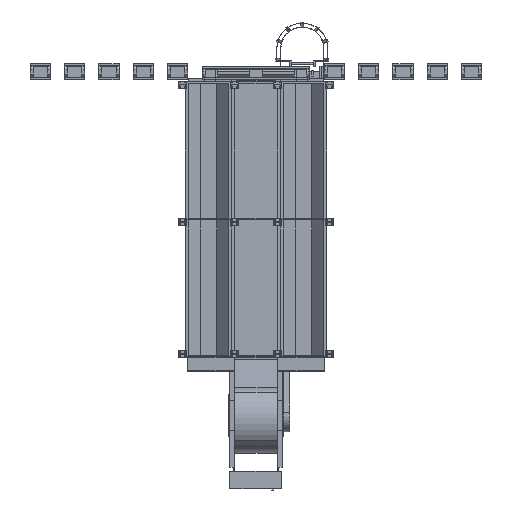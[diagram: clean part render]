
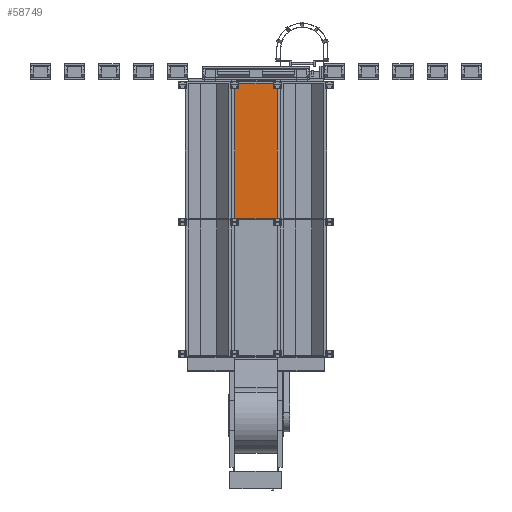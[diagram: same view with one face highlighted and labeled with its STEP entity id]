
A CAD part, front view. The second image highlights one B-rep face of the part: STEP entity #58749.
In plain terms, the highlighted planar face has unit normal (0, -1, 0) as drawn and (0, 0, -1) by its records, which use the part's own axes.
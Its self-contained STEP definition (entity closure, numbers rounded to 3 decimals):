
#3143=FACE_OUTER_BOUND('',#6157,.T.);
#6157=EDGE_LOOP('',(#39226,#39227,#39228,#39229));
#9858=LINE('',#83326,#17144);
#9861=LINE('',#83332,#17147);
#9927=LINE('',#83470,#17213);
#9928=LINE('',#83471,#17214);
#17144=VECTOR('',#67012,0.394);
#17147=VECTOR('',#67017,0.394);
#17213=VECTOR('',#67107,0.394);
#17214=VECTOR('',#67108,0.394);
#24359=VERTEX_POINT('',#83319);
#24362=VERTEX_POINT('',#83324);
#24363=VERTEX_POINT('',#83328);
#24424=VERTEX_POINT('',#83469);
#30175=EDGE_CURVE('',#24362,#24359,#9858,.T.);
#30178=EDGE_CURVE('',#24359,#24363,#9861,.T.);
#30244=EDGE_CURVE('',#24424,#24363,#9927,.T.);
#30245=EDGE_CURVE('',#24424,#24362,#9928,.T.);
#39226=ORIENTED_EDGE('',*,*,#30244,.T.);
#39227=ORIENTED_EDGE('',*,*,#30178,.F.);
#39228=ORIENTED_EDGE('',*,*,#30175,.F.);
#39229=ORIENTED_EDGE('',*,*,#30245,.F.);
#56367=PLANE('',#62247);
#58749=ADVANCED_FACE('',(#3143),#56367,.F.);
#62247=AXIS2_PLACEMENT_3D('',#83468,#67105,#67106);
#67012=DIRECTION('',(0.,-1.,0.));
#67017=DIRECTION('',(1.,0.,0.));
#67105=DIRECTION('center_axis',(0.,0.,1.));
#67106=DIRECTION('ref_axis',(1.,0.,0.));
#67107=DIRECTION('',(0.,-1.,0.));
#67108=DIRECTION('',(-1.,0.,0.));
#83319=CARTESIAN_POINT('',(-288.,-47.25,0.));
#83324=CARTESIAN_POINT('',(-288.,47.25,0.));
#83326=CARTESIAN_POINT('',(-288.,47.25,0.));
#83328=CARTESIAN_POINT('',(-192.004,-47.25,0.));
#83332=CARTESIAN_POINT('',(-288.,-47.25,0.));
#83468=CARTESIAN_POINT('Origin',(-144.,0.,0.));
#83469=CARTESIAN_POINT('',(-192.004,47.25,0.));
#83470=CARTESIAN_POINT('',(-192.004,2.638,0.));
#83471=CARTESIAN_POINT('',(0.,47.25,0.));
